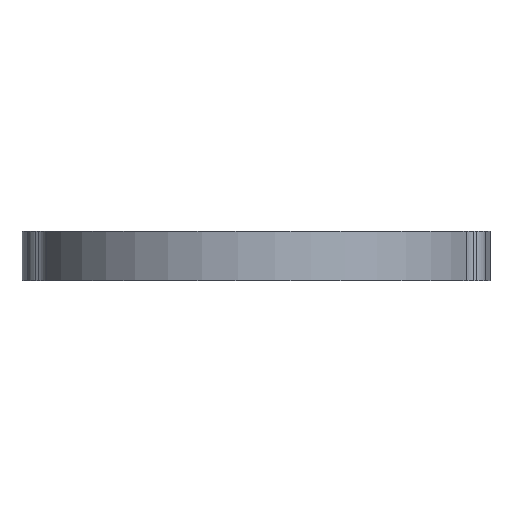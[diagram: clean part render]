
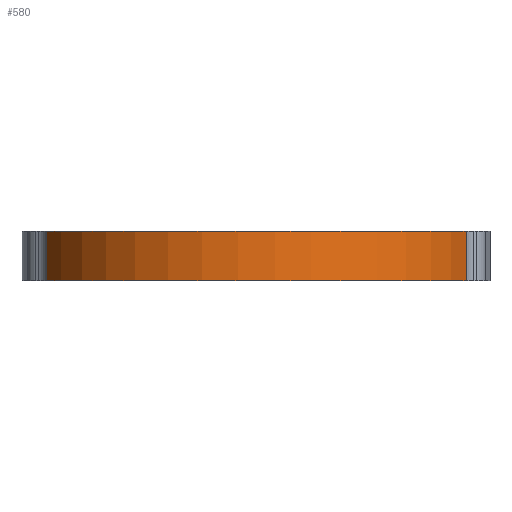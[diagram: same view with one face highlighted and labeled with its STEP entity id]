
A CAD part, front view. The second image highlights one B-rep face of the part: STEP entity #580.
In plain terms, the highlighted cylindrical face has radius 57.15 mm (diameter 114.3 mm), a partial arc.
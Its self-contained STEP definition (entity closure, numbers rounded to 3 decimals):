
#6 = LINE ( 'NONE', #1466, #362 ) ;
#37 = CARTESIAN_POINT ( 'NONE',  ( 0., 0., 0. ) ) ;
#38 = DIRECTION ( 'NONE',  ( 1., 0., 0. ) ) ;
#149 = DIRECTION ( 'NONE',  ( 0., 0., 1. ) ) ;
#258 = VERTEX_POINT ( 'NONE', #1011 ) ;
#261 = VERTEX_POINT ( 'NONE', #1008 ) ;
#269 = VERTEX_POINT ( 'NONE', #1007 ) ;
#313 = VERTEX_POINT ( 'NONE', #1364 ) ;
#362 = VECTOR ( 'NONE', #1434, 1000. ) ;
#530 = EDGE_CURVE ( 'NONE', #313, #258, #1262, .T. ) ;
#539 = EDGE_CURVE ( 'NONE', #269, #258, #1057, .T. ) ;
#540 = EDGE_CURVE ( 'NONE', #313, #261, #6, .T. ) ;
#580 = ADVANCED_FACE ( 'NONE', ( #691 ), #695, .T. ) ;
#691 = FACE_OUTER_BOUND ( 'NONE', #986, .T. ) ;
#695 = CYLINDRICAL_SURFACE ( 'NONE', #1020, 57.15 ) ;
#747 = CIRCLE ( 'NONE', #1050, 57.15 ) ;
#757 = ORIENTED_EDGE ( 'NONE', *, *, #540, .T. ) ;
#759 = ORIENTED_EDGE ( 'NONE', *, *, #530, .F. ) ;
#762 = ORIENTED_EDGE ( 'NONE', *, *, #539, .T. ) ;
#770 = ORIENTED_EDGE ( 'NONE', *, *, #912, .T. ) ;
#843 = CARTESIAN_POINT ( 'NONE',  ( 0., 0., 12.7 ) ) ;
#853 = DIRECTION ( 'NONE',  ( 0., 0., -1. ) ) ;
#901 = DIRECTION ( 'NONE',  ( -1., 0., 0. ) ) ;
#912 = EDGE_CURVE ( 'NONE', #261, #269, #747, .T. ) ;
#986 = EDGE_LOOP ( 'NONE', ( #770, #762, #759, #757 ) ) ;
#1007 = CARTESIAN_POINT ( 'NONE',  ( 53.872, -19.077, 0. ) ) ;
#1008 = CARTESIAN_POINT ( 'NONE',  ( -53.872, -19.077, 0. ) ) ;
#1011 = CARTESIAN_POINT ( 'NONE',  ( 53.872, -19.077, 12.7 ) ) ;
#1020 = AXIS2_PLACEMENT_3D ( 'NONE', #843, #853, #901 ) ;
#1050 = AXIS2_PLACEMENT_3D ( 'NONE', #37, #149, #38 ) ;
#1056 = VECTOR ( 'NONE', #1436, 1000. ) ;
#1057 = LINE ( 'NONE', #1442, #1056 ) ;
#1145 = AXIS2_PLACEMENT_3D ( 'NONE', #1479, #1478, #1477 ) ;
#1262 = CIRCLE ( 'NONE', #1145, 57.15 ) ;
#1364 = CARTESIAN_POINT ( 'NONE',  ( -53.872, -19.077, 12.7 ) ) ;
#1434 = DIRECTION ( 'NONE',  ( 0., 0., -1. ) ) ;
#1436 = DIRECTION ( 'NONE',  ( 0., 0., 1. ) ) ;
#1442 = CARTESIAN_POINT ( 'NONE',  ( 53.872, -19.077, 12.7 ) ) ;
#1466 = CARTESIAN_POINT ( 'NONE',  ( -53.872, -19.077, 12.7 ) ) ;
#1477 = DIRECTION ( 'NONE',  ( 1., 0., 0. ) ) ;
#1478 = DIRECTION ( 'NONE',  ( 0., 0., 1. ) ) ;
#1479 = CARTESIAN_POINT ( 'NONE',  ( 0., 0., 12.7 ) ) ;
